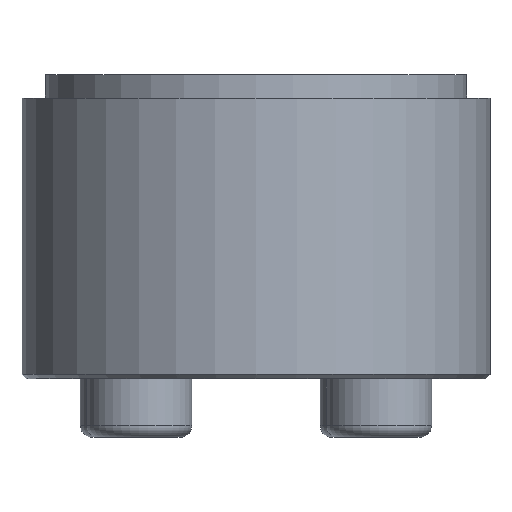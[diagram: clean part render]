
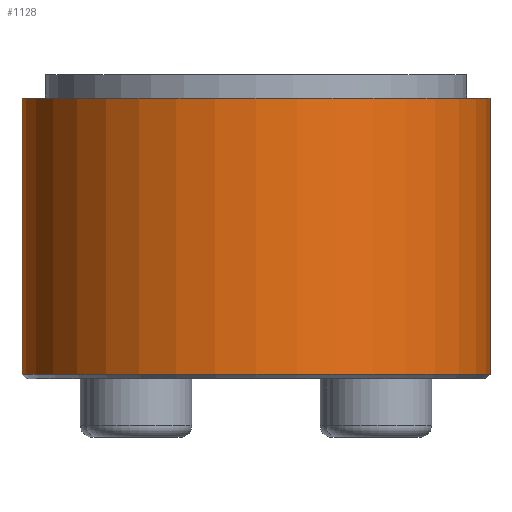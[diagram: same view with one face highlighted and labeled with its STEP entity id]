
A CAD part, front view. The second image highlights one B-rep face of the part: STEP entity #1128.
In plain terms, the highlighted cylindrical face has radius 10 mm (diameter 20 mm), a partial arc.
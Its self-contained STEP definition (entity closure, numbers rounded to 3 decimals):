
#29 = DIRECTION ( 'NONE',  ( 0., 0., -1. ) ) ;
#177 = LINE ( 'NONE', #1557, #1612 ) ;
#188 = CARTESIAN_POINT ( 'NONE',  ( -10., 0., 5.5 ) ) ;
#217 = EDGE_CURVE ( 'NONE', #1297, #626, #548, .T. ) ;
#219 = DIRECTION ( 'NONE',  ( 0., 0., -1. ) ) ;
#229 = EDGE_CURVE ( 'NONE', #1213, #626, #177, .T. ) ;
#357 = CARTESIAN_POINT ( 'NONE',  ( 0., 0., 0. ) ) ;
#493 = DIRECTION ( 'NONE',  ( 0., 0., -1. ) ) ;
#545 = VECTOR ( 'NONE', #219, 1000. ) ;
#548 = CIRCLE ( 'NONE', #1614, 10. ) ;
#626 = VERTEX_POINT ( 'NONE', #806 ) ;
#734 = AXIS2_PLACEMENT_3D ( 'NONE', #1034, #1439, #1453 ) ;
#806 = CARTESIAN_POINT ( 'NONE',  ( 10., 0., -6.3 ) ) ;
#818 = ORIENTED_EDGE ( 'NONE', *, *, #229, .F. ) ;
#914 = LINE ( 'NONE', #1743, #545 ) ;
#916 = CIRCLE ( 'NONE', #734, 10. ) ;
#970 = EDGE_CURVE ( 'NONE', #1213, #1555, #916, .T. ) ;
#974 = DIRECTION ( 'NONE',  ( -1., 0., 0. ) ) ;
#1012 = ORIENTED_EDGE ( 'NONE', *, *, #1633, .T. ) ;
#1034 = CARTESIAN_POINT ( 'NONE',  ( 0., 0., 5.5 ) ) ;
#1042 = AXIS2_PLACEMENT_3D ( 'NONE', #357, #493, #1324 ) ;
#1122 = ORIENTED_EDGE ( 'NONE', *, *, #970, .T. ) ;
#1128 = ADVANCED_FACE ( 'NONE', ( #1421 ), #1651, .T. ) ;
#1213 = VERTEX_POINT ( 'NONE', #1402 ) ;
#1250 = ORIENTED_EDGE ( 'NONE', *, *, #217, .T. ) ;
#1260 = CARTESIAN_POINT ( 'NONE',  ( -10., 0., -6.3 ) ) ;
#1273 = DIRECTION ( 'NONE',  ( 0., 0., 1. ) ) ;
#1297 = VERTEX_POINT ( 'NONE', #1260 ) ;
#1324 = DIRECTION ( 'NONE',  ( -1., 0., 0. ) ) ;
#1361 = EDGE_LOOP ( 'NONE', ( #818, #1122, #1012, #1250 ) ) ;
#1402 = CARTESIAN_POINT ( 'NONE',  ( 10., 0., 5.5 ) ) ;
#1421 = FACE_OUTER_BOUND ( 'NONE', #1361, .T. ) ;
#1439 = DIRECTION ( 'NONE',  ( 0., 0., -1. ) ) ;
#1453 = DIRECTION ( 'NONE',  ( 1., 0., 0. ) ) ;
#1555 = VERTEX_POINT ( 'NONE', #188 ) ;
#1557 = CARTESIAN_POINT ( 'NONE',  ( 10., 0., 0. ) ) ;
#1612 = VECTOR ( 'NONE', #29, 1000. ) ;
#1614 = AXIS2_PLACEMENT_3D ( 'NONE', #1664, #1273, #974 ) ;
#1633 = EDGE_CURVE ( 'NONE', #1555, #1297, #914, .T. ) ;
#1651 = CYLINDRICAL_SURFACE ( 'NONE', #1042, 10. ) ;
#1664 = CARTESIAN_POINT ( 'NONE',  ( 0., 0., -6.3 ) ) ;
#1743 = CARTESIAN_POINT ( 'NONE',  ( -10., 0., 0. ) ) ;
